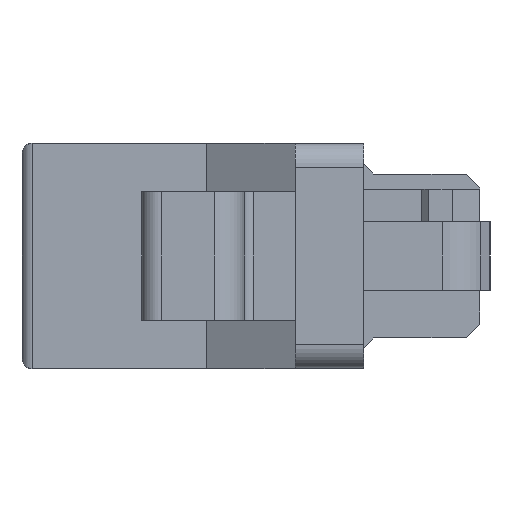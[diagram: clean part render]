
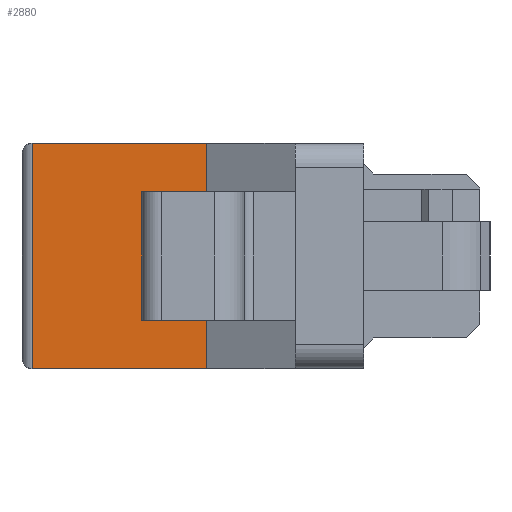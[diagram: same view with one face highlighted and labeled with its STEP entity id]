
A CAD part, left-side view. The second image highlights one B-rep face of the part: STEP entity #2880.
In plain terms, the highlighted planar face has unit normal (-1, 0, 0).
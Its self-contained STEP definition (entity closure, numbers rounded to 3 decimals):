
#1810=CARTESIAN_POINT('',(36.331,-10.58,0.));
#1820=VERTEX_POINT('',#1810);
#1850=CARTESIAN_POINT('',(36.331,-10.58,
0.));
#1860=DIRECTION('',(0.,-1.,0.));
#1870=VECTOR('',#1860,1.);
#1880=LINE('',#1850,#1870);
#1890=CARTESIAN_POINT('',(36.331,-17.68,
0.));
#1900=VERTEX_POINT('',#1890);
#1910=EDGE_CURVE('',#1820,#1900,#1880,.T.);
#2130=CARTESIAN_POINT('',(36.331,-17.68,1.425));
#2140=VERTEX_POINT('',#2130);
#2240=CARTESIAN_POINT('',(36.331,-17.68,
0.));
#2250=DIRECTION('',(0.,0.,1.));
#2260=VECTOR('',#2250,1.);
#2270=LINE('',#2240,#2260);
#2280=EDGE_CURVE('',#1900,#2140,#2270,.T.);
#2330=CARTESIAN_POINT('',(36.331,-18.68,
6.6));
#2340=DIRECTION('',(-1.,0.,0.));
#2350=DIRECTION('',(0.,0.,-1.));
#2360=AXIS2_PLACEMENT_3D('',#2330,#2340,#2350);
#2370=PLANE('',#2360);
#2380=CARTESIAN_POINT('',(36.331,-17.68,5.175));
#2390=DIRECTION('',(0.,-1.,0.));
#2400=VECTOR('',#2390,1.);
#2410=LINE('',#2380,#2400);
#2420=CARTESIAN_POINT('',(36.331,-17.68,5.175));
#2430=VERTEX_POINT('',#2420);
#2440=CARTESIAN_POINT('',(36.331,-18.28,5.175));
#2450=VERTEX_POINT('',#2440);
#2460=EDGE_CURVE('',#2430,#2450,#2410,.T.);
#2470=ORIENTED_EDGE('',*,*,#2460,.F.);
#2480=CARTESIAN_POINT('',(36.331,-18.28,5.175));
#2490=DIRECTION('',(0.,0.,-1.));
#2500=VECTOR('',#2490,1.);
#2510=LINE('',#2480,#2500);
#2520=CARTESIAN_POINT('',(36.331,-18.28,1.425));
#2530=VERTEX_POINT('',#2520);
#2540=EDGE_CURVE('',#2450,#2530,#2510,.T.);
#2550=ORIENTED_EDGE('',*,*,#2540,.F.);
#2560=CARTESIAN_POINT('',(36.331,-18.28,1.425));
#2570=DIRECTION('',(0.,1.,0.));
#2580=VECTOR('',#2570,1.);
#2590=LINE('',#2560,#2580);
#2600=EDGE_CURVE('',#2530,#2140,#2590,.T.);
#2610=ORIENTED_EDGE('',*,*,#2600,.F.);
#2620=ORIENTED_EDGE('',*,*,#2280,.T.);
#2630=ORIENTED_EDGE('',*,*,#1910,.T.);
#2640=CARTESIAN_POINT('',(36.331,-10.58,
0.));
#2650=DIRECTION('',(0.,0.,1.));
#2660=VECTOR('',#2650,1.);
#2670=LINE('',#2640,#2660);
#2680=CARTESIAN_POINT('',(36.331,-10.58,
6.6));
#2690=VERTEX_POINT('',#2680);
#2700=EDGE_CURVE('',#1820,#2690,#2670,.T.);
#2710=ORIENTED_EDGE('',*,*,#2700,.F.);
#2720=CARTESIAN_POINT('',(36.331,-17.68,
6.6));
#2730=DIRECTION('',(0.,1.,0.));
#2740=VECTOR('',#2730,1.);
#2750=LINE('',#2720,#2740);
#2760=CARTESIAN_POINT('',(36.331,-17.68,
6.6));
#2770=VERTEX_POINT('',#2760);
#2780=EDGE_CURVE('',#2770,#2690,#2750,.T.);
#2790=ORIENTED_EDGE('',*,*,#2780,.T.);
#2800=CARTESIAN_POINT('',(36.331,-17.68,5.175));
#2810=DIRECTION('',(0.,0.,1.));
#2820=VECTOR('',#2810,1.);
#2830=LINE('',#2800,#2820);
#2840=EDGE_CURVE('',#2430,#2770,#2830,.T.);
#2850=ORIENTED_EDGE('',*,*,#2840,.T.);
#2860=EDGE_LOOP('',(#2850,#2790,#2710,#2630,#2620,#2610,#2550,#2470));
#2870=FACE_OUTER_BOUND('',#2860,.T.);
#2880=ADVANCED_FACE('',(#2870),#2370,.T.);
